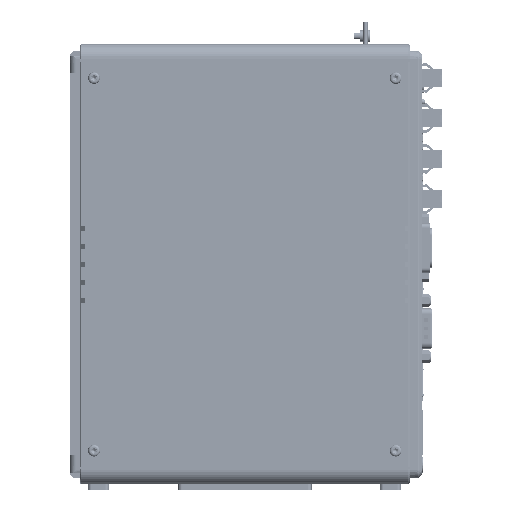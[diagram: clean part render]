
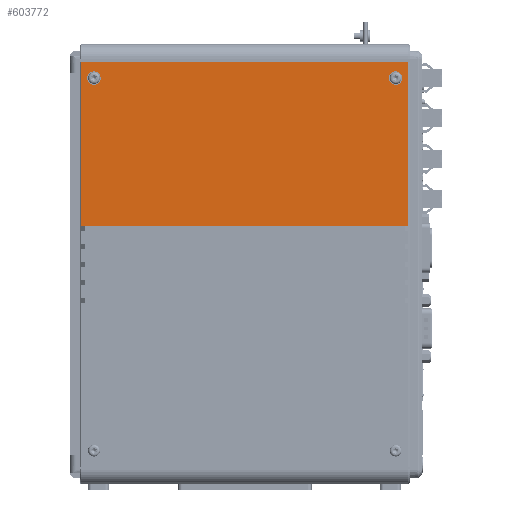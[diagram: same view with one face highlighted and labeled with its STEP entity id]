
A CAD part, front view. The second image highlights one B-rep face of the part: STEP entity #603772.
In plain terms, the highlighted planar face has unit normal (0, -1, 0).
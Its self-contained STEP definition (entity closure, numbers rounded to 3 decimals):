
#601233=CARTESIAN_POINT('',(140.7,-6.5,181.));
#601234=DIRECTION('',(0.,-1.,0.));
#601235=DIRECTION('',(0.,0.,1.));
#601236=AXIS2_PLACEMENT_3D('',#601233,#601234,#601235);
#601238=CARTESIAN_POINT('',(140.7,-6.5,181.));
#601239=DIRECTION('',(0.,-1.,0.));
#601240=DIRECTION('',(0.,0.,-1.));
#601241=AXIS2_PLACEMENT_3D('',#601238,#601239,#601240);
#601243=CARTESIAN_POINT('',(6.3,-6.5,181.));
#601244=DIRECTION('',(0.,-1.,0.));
#601245=DIRECTION('',(0.,0.,1.));
#601246=AXIS2_PLACEMENT_3D('',#601243,#601244,#601245);
#601248=CARTESIAN_POINT('',(6.3,-6.5,181.));
#601249=DIRECTION('',(0.,-1.,0.));
#601250=DIRECTION('',(0.,0.,-1.));
#601251=AXIS2_PLACEMENT_3D('',#601248,#601249,#601250);
#601317=DIRECTION('',(0.,0.,-1.));
#601318=VECTOR('',#601317,73.3);
#601319=CARTESIAN_POINT('',(146.3,-6.5,188.3));
#601320=LINE('',#601319,#601318);
#601321=DIRECTION('',(0.,0.,1.));
#601322=VECTOR('',#601321,73.3);
#601323=CARTESIAN_POINT('',(0.7,-6.5,115.));
#601324=LINE('',#601323,#601322);
#602011=DIRECTION('',(1.,0.,0.));
#602012=VECTOR('',#602011,145.6);
#602013=CARTESIAN_POINT('',(0.7,-6.5,115.));
#602014=LINE('',#602013,#602012);
#602273=DIRECTION('',(-1.,0.,0.));
#602274=VECTOR('',#602273,145.6);
#602275=CARTESIAN_POINT('',(146.3,-6.5,188.3));
#602276=LINE('',#602275,#602274);
#603137=CARTESIAN_POINT('',(140.7,-6.5,184.));
#603138=CARTESIAN_POINT('',(140.7,-6.5,178.));
#603139=VERTEX_POINT('',#603137);
#603140=VERTEX_POINT('',#603138);
#603141=CARTESIAN_POINT('',(6.3,-6.5,184.));
#603142=CARTESIAN_POINT('',(6.3,-6.5,178.));
#603143=VERTEX_POINT('',#603141);
#603144=VERTEX_POINT('',#603142);
#603265=CARTESIAN_POINT('',(146.3,-6.5,188.3));
#603266=CARTESIAN_POINT('',(0.7,-6.5,188.3));
#603267=VERTEX_POINT('',#603265);
#603268=VERTEX_POINT('',#603266);
#603339=CARTESIAN_POINT('',(0.7,-6.5,115.));
#603340=VERTEX_POINT('',#603339);
#603341=CARTESIAN_POINT('',(146.3,-6.5,115.));
#603342=VERTEX_POINT('',#603341);
#603745=CARTESIAN_POINT('',(0.,-6.5,196.));
#603746=DIRECTION('',(0.,-1.,0.));
#603747=DIRECTION('',(0.,0.,-1.));
#603748=AXIS2_PLACEMENT_3D('',#603745,#603746,#603747);
#603749=PLANE('',#603748);
#603751=ORIENTED_EDGE('',*,*,#603750,.T.);
#603753=ORIENTED_EDGE('',*,*,#603752,.F.);
#603755=ORIENTED_EDGE('',*,*,#603754,.T.);
#603757=ORIENTED_EDGE('',*,*,#603756,.F.);
#603758=EDGE_LOOP('',(#603751,#603753,#603755,#603757));
#603759=FACE_OUTER_BOUND('',#603758,.F.);
#603761=ORIENTED_EDGE('',*,*,#603760,.T.);
#603763=ORIENTED_EDGE('',*,*,#603762,.T.);
#603764=EDGE_LOOP('',(#603761,#603763));
#603765=FACE_BOUND('',#603764,.F.);
#603767=ORIENTED_EDGE('',*,*,#603766,.T.);
#603769=ORIENTED_EDGE('',*,*,#603768,.T.);
#603770=EDGE_LOOP('',(#603767,#603769));
#603771=FACE_BOUND('',#603770,.F.);
#603772=ADVANCED_FACE('',(#603759,#603765,#603771),#603749,.T.);
#601237=CIRCLE('',#601236,3.);
#601242=CIRCLE('',#601241,3.);
#601247=CIRCLE('',#601246,3.);
#601252=CIRCLE('',#601251,3.);
#603750=EDGE_CURVE('',#603267,#603342,#601320,.T.);
#603752=EDGE_CURVE('',#603340,#603342,#602014,.T.);
#603754=EDGE_CURVE('',#603340,#603268,#601324,.T.);
#603756=EDGE_CURVE('',#603267,#603268,#602276,.T.);
#603760=EDGE_CURVE('',#603139,#603140,#601237,.T.);
#603762=EDGE_CURVE('',#603140,#603139,#601242,.T.);
#603766=EDGE_CURVE('',#603143,#603144,#601247,.T.);
#603768=EDGE_CURVE('',#603144,#603143,#601252,.T.);
